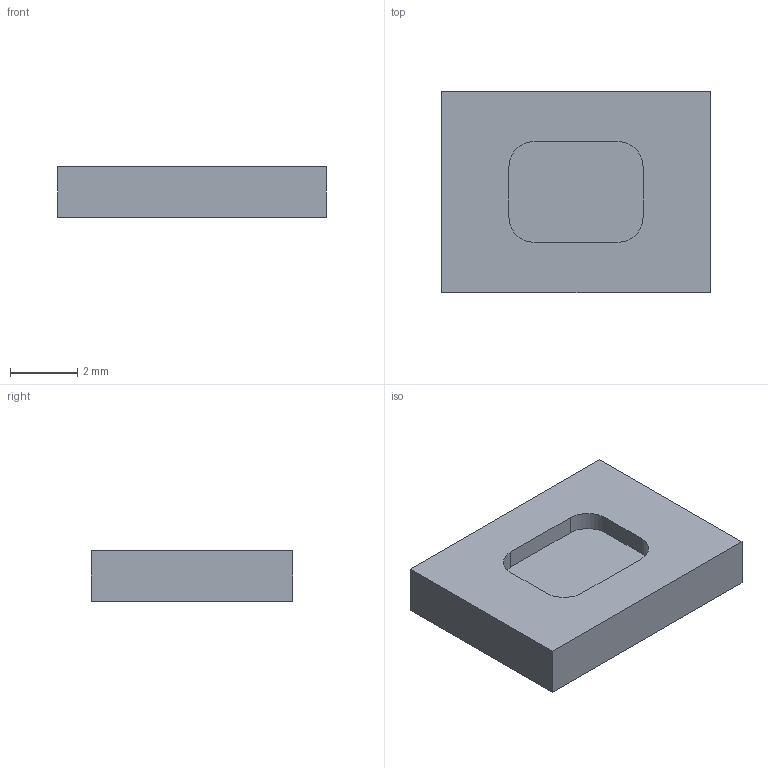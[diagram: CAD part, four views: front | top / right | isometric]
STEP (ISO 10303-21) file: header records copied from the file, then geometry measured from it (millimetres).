
FILE_DESCRIPTION(('FreeCAD Model'),'2;1');
FILE_NAME('Open CASCADE Shape Model','2026-11-02T20:21:27',('FreeCAD'),( 'FreeCAD'),'Open CASCADE STEP processor 7.8','FreeCAD','Unknown');
FILE_SCHEMA(('AUTOMOTIVE_DESIGN { 1 0 10303 214 1 1 1 1 }'));
Length unit declared in the file: millimetre
Products named in the file (1): Open CASCADE STEP translator 7.8 4
Bounding box: 8 x 6 x 1.5 mm (x, y, z)
Volume: 65.7 mm3; surface area: 145 mm2
Topology: 1 solids, 1 shells, 15 faces, 36 edges, 24 vertices
Faces by surface type: plane 11, cylinder 4
Entity records: 448 total; most frequent: CARTESIAN_POINT 76, DIRECTION 76, ORIENTED_EDGE 72, EDGE_CURVE 36, LINE 28, VECTOR 28, AXIS2_PLACEMENT_3D 24, VERTEX_POINT 24
